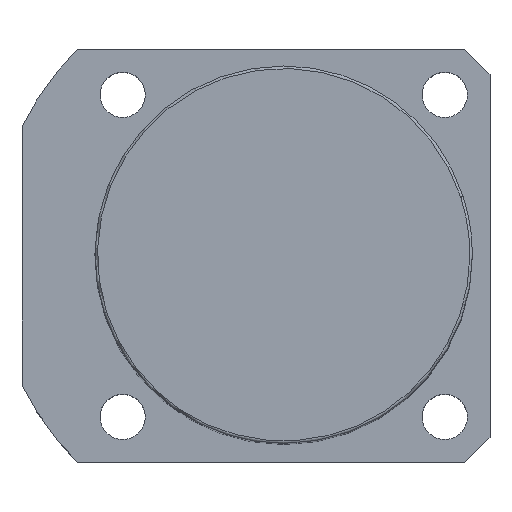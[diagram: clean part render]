
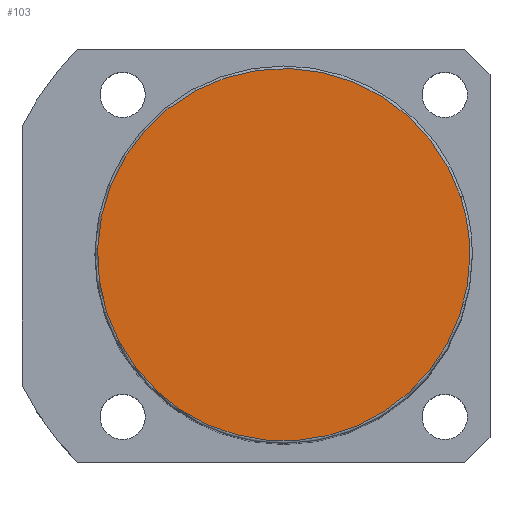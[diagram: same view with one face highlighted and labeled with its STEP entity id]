
A CAD part, top view. The second image highlights one B-rep face of the part: STEP entity #103.
In plain terms, the highlighted planar face has unit normal (0, 0, 1).
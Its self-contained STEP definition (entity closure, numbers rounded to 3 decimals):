
#16=CARTESIAN_POINT('',(-35.189,-11.434,148.0));
#17=VERTEX_POINT('',#16);
#54=CARTESIAN_POINT('',(35.189,11.434,148.0));
#55=VERTEX_POINT('',#54);
#63=CARTESIAN_POINT('',(37.0,0.0,148.0));
#64=VERTEX_POINT('',#63);
#65=CARTESIAN_POINT('',(0.0,0.0,148.0));
#66=DIRECTION('',(0.0,0.0,1.0));
#67=DIRECTION('',(1.0,0.0,0.0));
#68=AXIS2_PLACEMENT_3D('',#65,#66,#67);
#69=CIRCLE('',#68,37.0);
#70=EDGE_CURVE('no 898',#64,#55,#69,.T.);
#72=CARTESIAN_POINT('',(0.0,0.0,148.0));
#73=DIRECTION('',(0.0,0.0,1.0));
#74=DIRECTION('',(1.0,0.0,0.0));
#75=AXIS2_PLACEMENT_3D('',#72,#73,#74);
#76=CIRCLE('',#75,37.0);
#77=EDGE_CURVE('no 902',#17,#64,#76,.T.);
#87=ORIENTED_EDGE('',*,*,#70,.T.);
#88=CARTESIAN_POINT('',(0.0,0.0,148.0));
#89=DIRECTION('',(0.0,0.0,1.0));
#90=DIRECTION('',(1.0,0.0,0.0));
#91=AXIS2_PLACEMENT_3D('',#88,#89,#90);
#92=CIRCLE('',#91,37.0);
#93=EDGE_CURVE('no 911',#55,#17,#92,.T.);
#94=ORIENTED_EDGE('',*,*,#93,.T.);
#95=ORIENTED_EDGE('',*,*,#77,.T.);
#96=EDGE_LOOP('',(#87,#94,#95));
#97=FACE_OUTER_BOUND('',#96,.T.);
#98=CARTESIAN_POINT('',(0.0,0.0,148.0));
#99=DIRECTION('',(0.0,0.0,1.0));
#100=DIRECTION('',(1.0,0.0,0.0));
#101=AXIS2_PLACEMENT_3D('',#98,#99,#100);
#102=PLANE('',#101);
#103=ADVANCED_FACE('no 904',(#97),#102,.T.);
